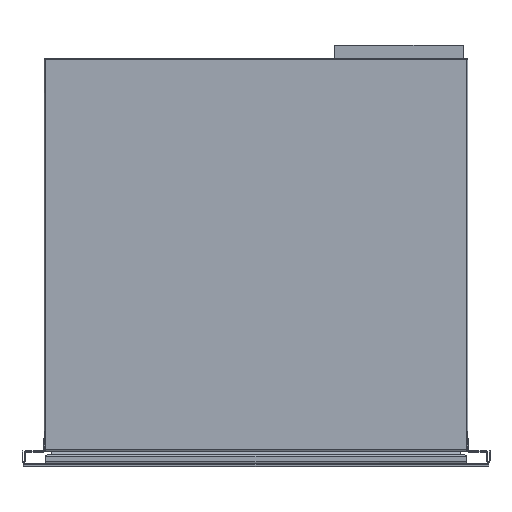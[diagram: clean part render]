
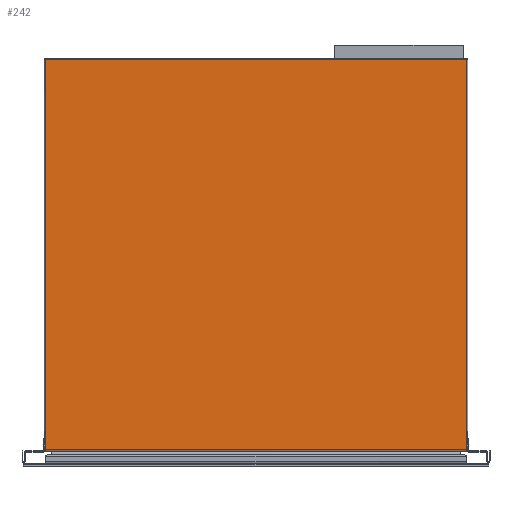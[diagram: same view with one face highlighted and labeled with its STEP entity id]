
A CAD part, top view. The second image highlights one B-rep face of the part: STEP entity #242.
In plain terms, the highlighted planar face has unit normal (0, 0, 1).
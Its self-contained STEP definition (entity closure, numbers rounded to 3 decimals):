
#242=ADVANCED_FACE('',(#481),#3736,.T.);
#481=FACE_OUTER_BOUND('',#724,.T.);
#724=EDGE_LOOP('',(#1327,#1328,#1329,#1330,#1331,#1332));
#1327=ORIENTED_EDGE('',*,*,#2279,.F.);
#1328=ORIENTED_EDGE('',*,*,#2280,.F.);
#1329=ORIENTED_EDGE('',*,*,#2281,.F.);
#1330=ORIENTED_EDGE('',*,*,#2282,.F.);
#1331=ORIENTED_EDGE('',*,*,#2283,.F.);
#1332=ORIENTED_EDGE('',*,*,#2278,.F.);
#2278=EDGE_CURVE('',#3376,#3377,#2977,.T.);
#2279=EDGE_CURVE('',#3378,#3376,#2978,.T.);
#2280=EDGE_CURVE('',#3379,#3378,#2979,.T.);
#2281=EDGE_CURVE('',#3380,#3379,#2980,.T.);
#2282=EDGE_CURVE('',#3381,#3380,#2981,.T.);
#2283=EDGE_CURVE('',#3377,#3381,#2982,.T.);
#2977=B_SPLINE_CURVE_WITH_KNOTS('',1,(#5359,#5360),.UNSPECIFIED.,.F.,.F.,
(2,2),(-473.4,0.),.UNSPECIFIED.);
#2978=B_SPLINE_CURVE_WITH_KNOTS('',1,(#5361,#5362),.UNSPECIFIED.,.F.,.F.,
(2,2),(-536.3,0.),.UNSPECIFIED.);
#2979=B_SPLINE_CURVE_WITH_KNOTS('',1,(#5363,#5364),.UNSPECIFIED.,.F.,.F.,
(2,2),(-473.4,0.),.UNSPECIFIED.);
#2980=B_SPLINE_CURVE_WITH_KNOTS('',1,(#5365,#5366),.UNSPECIFIED.,.F.,.F.,
(2,2),(-23.4,0.),.UNSPECIFIED.);
#2981=B_SPLINE_CURVE_WITH_KNOTS('',1,(#5367,#5368),.UNSPECIFIED.,.F.,.F.,
(2,2),(-536.3,0.),.UNSPECIFIED.);
#2982=B_SPLINE_CURVE_WITH_KNOTS('',1,(#5369,#5370),.UNSPECIFIED.,.F.,.F.,
(2,2),(-23.4,0.),.UNSPECIFIED.);
#3376=VERTEX_POINT('',#5297);
#3377=VERTEX_POINT('',#5298);
#3378=VERTEX_POINT('',#5299);
#3379=VERTEX_POINT('',#5300);
#3380=VERTEX_POINT('',#5301);
#3381=VERTEX_POINT('',#5302);
#3736=PLANE('',#3922);
#3922=AXIS2_PLACEMENT_3D('',#5081,#4134,$);
#4134=DIRECTION('',(0.,0.,1.));
#5081=CARTESIAN_POINT('',(-53.34,-405.64,106.5));
#5297=CARTESIAN_POINT('',(536.65,140.9,106.5));
#5298=CARTESIAN_POINT('',(536.65,-332.5,106.5));
#5299=CARTESIAN_POINT('',(0.35,140.9,106.5));
#5300=CARTESIAN_POINT('',(0.35,-332.5,106.5));
#5301=CARTESIAN_POINT('',(0.35,-355.9,106.5));
#5302=CARTESIAN_POINT('',(536.65,-355.9,106.5));
#5359=CARTESIAN_POINT('',(536.65,140.9,106.5));
#5360=CARTESIAN_POINT('',(536.65,-332.5,106.5));
#5361=CARTESIAN_POINT('',(0.35,140.9,106.5));
#5362=CARTESIAN_POINT('',(536.65,140.9,106.5));
#5363=CARTESIAN_POINT('',(0.35,-332.5,106.5));
#5364=CARTESIAN_POINT('',(0.35,140.9,106.5));
#5365=CARTESIAN_POINT('',(0.35,-355.9,106.5));
#5366=CARTESIAN_POINT('',(0.35,-332.5,106.5));
#5367=CARTESIAN_POINT('',(536.65,-355.9,106.5));
#5368=CARTESIAN_POINT('',(0.35,-355.9,106.5));
#5369=CARTESIAN_POINT('',(536.65,-332.5,106.5));
#5370=CARTESIAN_POINT('',(536.65,-355.9,106.5));
